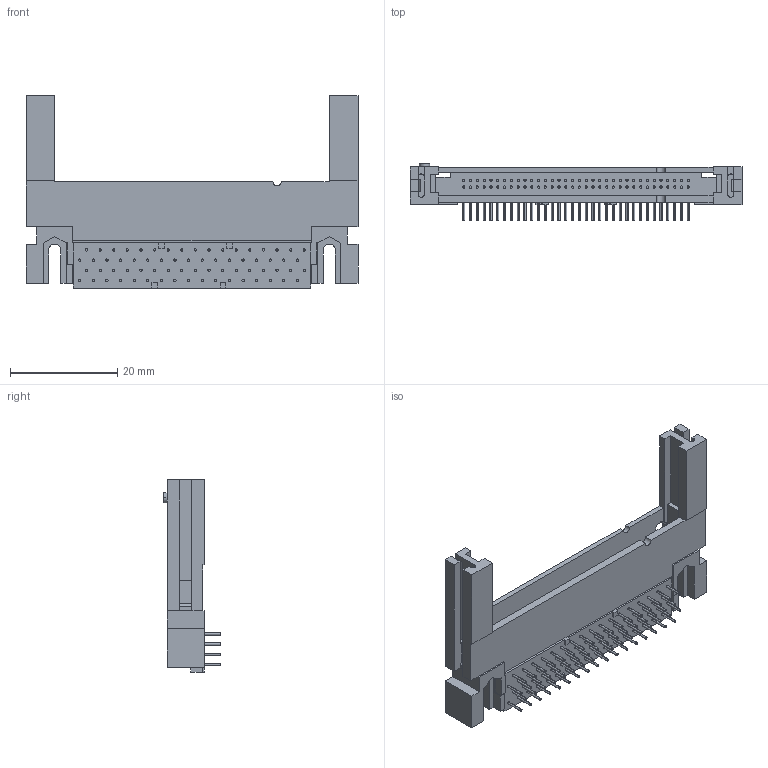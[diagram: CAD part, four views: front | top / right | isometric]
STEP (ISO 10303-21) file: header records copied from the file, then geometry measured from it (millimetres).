
FILE_DESCRIPTION((''),'2;1');
FILE_NAME('C-5535653-1','2018-03-23T',('workeradm'),('TE Connectivity Ltd.'),'CREO PARAMETRIC BY PTC INC, 2016050','CREO PARAMETRIC BY PTC INC, 2016050','');
FILE_SCHEMA(('AUTOMOTIVE_DESIGN { 1 0 10303 214 1 1 1 1 }'));
Length unit declared in the file: inch
Products named in the file (1): C-5535653-1
Bounding box: 61.98 x 10.64 x 35.88 mm (x, y, z)
Volume: 4361.4 mm3; surface area: 7495.9 mm2
Topology: 1 solids, 1 shells, 972 faces, 2234 edges, 1396 vertices
Faces by surface type: cylinder 558, plane 278, torus 136
Entity records: 28197 total; most frequent: DIRECTION 5432, CARTESIAN_POINT 4604, ORIENTED_EDGE 4468, EDGE_CURVE 2234, AXIS2_PLACEMENT_3D 2226, VERTEX_POINT 1396, CIRCLE 1254, EDGE_LOOP 1246
